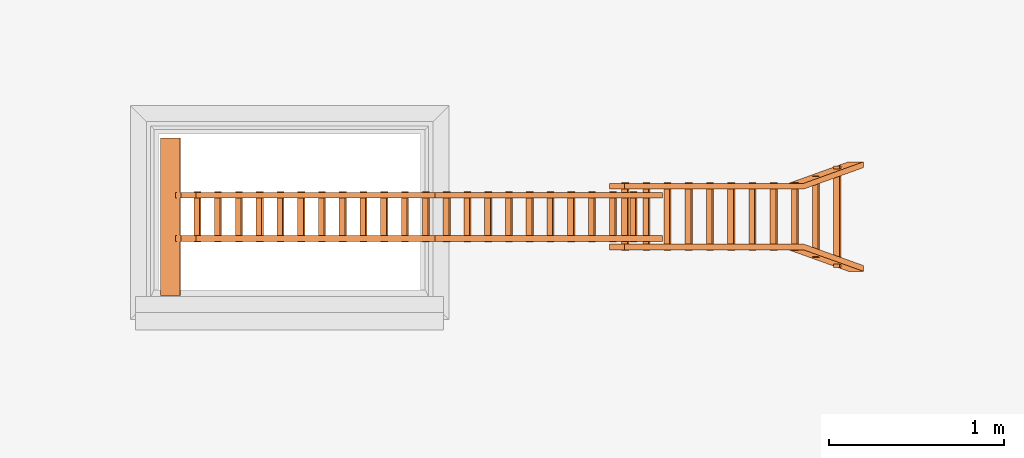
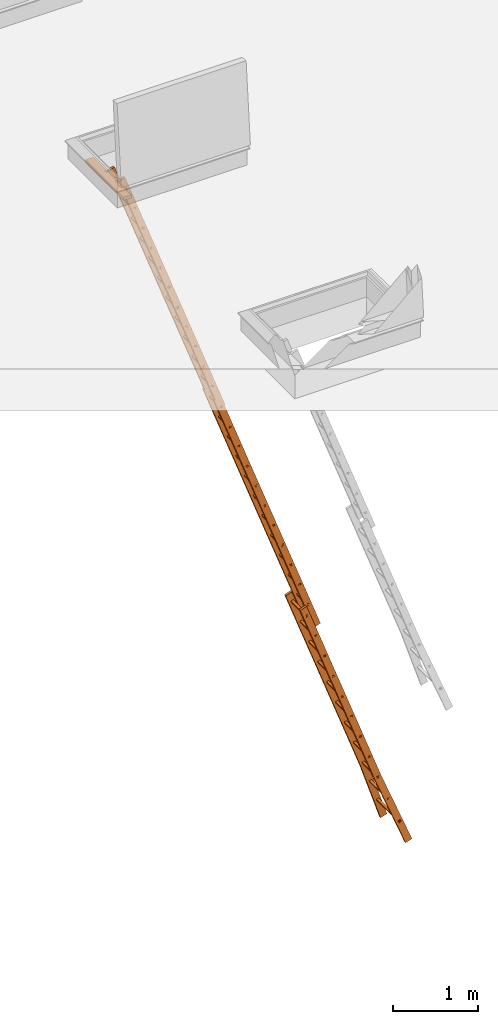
# One storey, part 7 of 28: 1 proxy, 2 openings.
"""IFC2X3 building model written with IfcOpenShell, lengths in millimetres."""

from ifc_helpers import new_model, entity, si_unit, converted_unit, derived_unit, direction, frame, frame_2d, origin, origin_2d_with_axis, place, context, subcontext, project, spatial, polyline, circle_curve, parameter, trimmed, segment, composite_curve, rectangle, outline, extrude, source, transform, mapped, type_object, type_shapes, element, save


model = new_model("IFC2X3")

# Units and contexts
model_context = context("Model", 3, precision=0.01, world=origin(), true_north=direction((6.12303176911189e-17, 1.0)))
body_context = subcontext(model_context, "Body", "Model", "MODEL_VIEW")
ifc_project = project(units=[si_unit("LENGTHUNIT", "METRE", prefix="MILLI"), si_unit("AREAUNIT", "SQUARE_METRE"), si_unit("VOLUMEUNIT", "CUBIC_METRE"), converted_unit("PLANEANGLEUNIT", "DEGREE", entity("IfcRatioMeasure", 0.0174532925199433), si_unit("PLANEANGLEUNIT", "RADIAN"), dimensions=[0, 0, 0, 0, 0, 0, 0]), si_unit("MASSUNIT", "GRAM", prefix="KILO"), derived_unit("MASSDENSITYUNIT", [(si_unit("MASSUNIT", "GRAM", prefix="KILO"), 1), (si_unit("LENGTHUNIT", "METRE"), -3)]), si_unit("TIMEUNIT", "SECOND"), si_unit("FREQUENCYUNIT", "HERTZ"), si_unit("THERMODYNAMICTEMPERATUREUNIT", "DEGREE_CELSIUS"), derived_unit("THERMALTRANSMITTANCEUNIT", [(si_unit("MASSUNIT", "GRAM", prefix="KILO"), 1), (si_unit("THERMODYNAMICTEMPERATUREUNIT", "KELVIN"), -1), (si_unit("TIMEUNIT", "SECOND"), -3)]), derived_unit("VOLUMETRICFLOWRATEUNIT", [(si_unit("LENGTHUNIT", "METRE"), 3), (si_unit("TIMEUNIT", "SECOND"), -1)]), si_unit("ELECTRICCURRENTUNIT", "AMPERE"), si_unit("ELECTRICVOLTAGEUNIT", "VOLT"), si_unit("POWERUNIT", "WATT"), si_unit("FORCEUNIT", "NEWTON", prefix="KILO"), si_unit("ILLUMINANCEUNIT", "LUX"), si_unit("LUMINOUSFLUXUNIT", "LUMEN"), si_unit("LUMINOUSINTENSITYUNIT", "CANDELA"), derived_unit("USERDEFINED", [(si_unit("MASSUNIT", "GRAM", prefix="KILO"), -1), (si_unit("LENGTHUNIT", "METRE"), -2), (si_unit("TIMEUNIT", "SECOND"), 3), (si_unit("LUMINOUSFLUXUNIT", "LUMEN"), 1)]), derived_unit("LINEARVELOCITYUNIT", [(si_unit("LENGTHUNIT", "METRE"), 1), (si_unit("TIMEUNIT", "SECOND"), -1)]), si_unit("PRESSUREUNIT", "PASCAL"), derived_unit("USERDEFINED", [(si_unit("LENGTHUNIT", "METRE"), -2), (si_unit("MASSUNIT", "GRAM", prefix="KILO"), 1), (si_unit("TIMEUNIT", "SECOND"), -2)])], contexts=[model_context])

# Site, building, storey
site_placement = place(None, origin())
site = spatial("IfcSite", under=ifc_project, at=site_placement, Name="Default", CompositionType="ELEMENT")
building_placement = place(site_placement, origin())
building = spatial("IfcBuilding", under=site, at=building_placement, CompositionType="ELEMENT")
storey_placement = place(building_placement, frame((0.0, 0.0, 4000.0)))
storey = spatial("IfcBuildingStorey", under=building, at=storey_placement, Name="Level 2", CompositionType="ELEMENT", Elevation=4000.0)

# Proxy, openings
building_element_proxy_type = type_object("IfcBuildingElementProxyType", Name="9_Topaccess_Trap_3delige1", PredefinedType="NOTDEFINED")
shared_shape = source(origin(), body_context, "Body", "SweptSolid", [
    extrude(outline(composite_curve([segment(polyline([(-20.0, -72.6666666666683), (20.0, -72.6666666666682)]), True, "CONTINUOUS"), segment(polyline([(20.0, -72.6666666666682), (20.0, 31.8333333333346)]), True, "CONTINUOUS"), segment(trimmed(circle_curve(frame_2d((11.0, 31.8333333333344), x_axis=(0.939692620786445, -0.342020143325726)), 8.99999999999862), [parameter(20.0000000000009)], [parameter(109.999999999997)], True, "PARAMETER"), True, "CONTINUOUS"), segment(polyline([(11.0, 40.8333333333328), (-11.0, 40.833333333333)]), True, "CONTINUOUS"), segment(trimmed(circle_curve(frame_2d((-11.0, 31.8333333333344), x_axis=(0.939692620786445, -0.342020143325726)), 8.99999999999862), [parameter(109.999999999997)], [parameter(199.999999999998)], True, "PARAMETER"), True, "CONTINUOUS"), segment(polyline([(-20.0, 31.8333333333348), (-20.0, -72.6666666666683)]), True, "CONTINUOUS")], self_intersect=False)), frame((-484.291584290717, 5437.00468660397, 85.555153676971), z_axis=(1.0, 0.0, 0.0), x_axis=(0.0, 0.939692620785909, 0.342020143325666)), (0.0, 0.0, 1.0), 900.0),
    extrude(outline(composite_curve([segment(polyline([(34.5620685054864, -17.3803405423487), (-85.4379314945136, -17.3803405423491)]), True, "CONTINUOUS"), segment(polyline([(-85.4379314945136, -17.3803405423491), (-85.4379314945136, -20.3803405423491)]), True, "CONTINUOUS"), segment(polyline([(-85.4379314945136, -20.3803405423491), (34.8237042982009, -20.3803405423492)]), True, "CONTINUOUS"), segment(trimmed(circle_curve(frame_2d((31.2529900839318, 0.719659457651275), x_axis=(1.0, 0.0)), 21.4), [parameter(279.605058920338)], [parameter(66.7401617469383)], True, "PARAMETER"), True, "CONTINUOUS"), segment(polyline([(39.7038846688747, 20.3803405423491), (11.3620685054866, 20.380340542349)]), True, "CONTINUOUS"), segment(polyline([(11.3620685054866, 20.380340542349), (11.3620685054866, 17.380340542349)]), True, "CONTINUOUS"), segment(polyline([(11.3620685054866, 17.380340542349), (39.0620685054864, 17.3803405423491)]), True, "CONTINUOUS"), segment(trimmed(circle_curve(frame_2d((31.2529900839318, 0.719659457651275), x_axis=(1.0, 0.0)), 18.4), [parameter(280.36051137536)], [parameter(64.8869014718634)], True, "PARAMETER"), False, "CONTINUOUS")], self_intersect=False)), frame((72.0, 5400.1320556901, 113.619659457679), z_axis=(-1.0, 0.0, 0.0), x_axis=(0.0, 1.0, 0.0)), (0.0, 0.0, -1.0), 33.0),
    extrude(outline(composite_curve([segment(polyline([(-85.4379314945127, -17.3803405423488), (-85.4379314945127, -20.3803405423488)]), True, "CONTINUOUS"), segment(polyline([(-85.4379314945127, -20.3803405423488), (34.8237042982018, -20.3803405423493)]), True, "CONTINUOUS"), segment(trimmed(circle_curve(frame_2d((31.2529900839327, 0.719659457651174), x_axis=(1.0, 0.0)), 21.4), [parameter(279.605058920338)], [parameter(66.7401617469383)], True, "PARAMETER"), True, "CONTINUOUS"), segment(polyline([(39.7038846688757, 20.380340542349), (11.3620685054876, 20.380340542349)]), True, "CONTINUOUS"), segment(polyline([(11.3620685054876, 20.380340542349), (11.3620685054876, 17.380340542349)]), True, "CONTINUOUS"), segment(polyline([(11.3620685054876, 17.380340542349), (39.0620685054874, 17.380340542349)]), True, "CONTINUOUS"), segment(trimmed(circle_curve(frame_2d((31.2529900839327, 0.719659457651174), x_axis=(1.0, 0.0)), 18.4), [parameter(280.36051137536)], [parameter(64.8869014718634)], True, "PARAMETER"), False, "CONTINUOUS"), segment(polyline([(34.5620685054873, -17.3803405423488), (-85.4379314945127, -17.3803405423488)]), True, "CONTINUOUS")], self_intersect=False)), frame((-175.0, 5400.13205569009, 113.619659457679), z_axis=(-1.0, 0.0, 0.0), x_axis=(0.0, 1.0, 0.0)), (0.0, 0.0, -1.0), 33.0000000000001),
    extrude(outline(polyline([(-11.5216143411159, -16.5), (13.8405381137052, -16.5), (13.8405381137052, 16.4999999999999), (-16.1594618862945, 16.5), (-11.5216143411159, -16.5)]), holes=[polyline([(8.84053811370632, -11.5), (-7.1751806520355, -11.5), (-10.4076198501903, 11.5000000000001), (8.84053811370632, 11.5), (8.84053811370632, -11.5)])]), frame((-178.583168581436, 1440.72573419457, 171.084388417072), z_axis=(1.0, 0.0, 0.0), x_axis=(0.0, -1.0, 0.0)), (0.0, 0.0, 1.0), 288.583168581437),
    extrude(outline(polyline([(-11.5216143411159, -16.5), (13.8405381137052, -16.5), (13.8405381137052, 16.4999999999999), (-16.1594618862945, 16.5), (-11.5216143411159, -16.5)]), holes=[polyline([(8.84053811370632, -11.5), (-7.1751806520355, -11.5), (-10.4076198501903, 11.5000000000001), (8.84053811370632, 11.5), (8.84053811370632, -11.5)])]), frame((-178.583168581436, 1093.22573419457, 171.084388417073), z_axis=(1.0, 0.0, 0.0), x_axis=(0.0, -1.0, 0.0)), (0.0, 0.0, 1.0), 288.583168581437),
    extrude(outline(polyline([(-11.5216143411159, -16.5), (13.8405381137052, -16.5), (13.8405381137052, 16.4999999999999), (-16.1594618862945, 16.5), (-11.5216143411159, -16.5)]), holes=[polyline([(8.84053811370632, -11.5), (-7.1751806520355, -11.5), (-10.4076198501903, 11.5000000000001), (8.84053811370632, 11.5), (8.84053811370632, -11.5)])]), frame((-178.583168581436, 745.725734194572, 171.084388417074), z_axis=(1.0, 0.0, 0.0), x_axis=(0.0, -1.0, 0.0)), (0.0, 0.0, 1.0), 288.583168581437),
    extrude(outline(polyline([(-11.5216143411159, -16.5), (13.8405381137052, -16.5), (13.8405381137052, 16.4999999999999), (-16.1594618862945, 16.5), (-11.5216143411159, -16.5)]), holes=[polyline([(8.84053811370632, -11.5), (-7.1751806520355, -11.5), (-10.4076198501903, 11.5000000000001), (8.84053811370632, 11.5), (8.84053811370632, -11.5)])]), frame((-178.583168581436, 398.225734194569, 171.084388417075), z_axis=(1.0, 0.0, 0.0), x_axis=(0.0, -1.0, 0.0)), (0.0, 0.0, 1.0), 288.583168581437),
    extrude(outline(polyline([(-11.5216143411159, -16.5), (13.8405381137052, -16.5), (13.8405381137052, 16.4999999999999), (-16.1594618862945, 16.5), (-11.5216143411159, -16.5)]), holes=[polyline([(8.84053811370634, -11.5), (-7.17518065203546, -11.5), (-10.4076198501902, 11.5000000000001), (8.84053811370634, 11.5), (8.84053811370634, -11.5)])]), frame((-178.583168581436, 50.7257341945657, 171.084388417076), z_axis=(1.0, 0.0, 0.0), x_axis=(0.0, -1.0, 0.0)), (0.0, 0.0, 1.0), 288.583168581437),
    extrude(outline(polyline([(-11.5216143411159, -16.5), (13.8405381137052, -16.5), (13.8405381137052, 16.4999999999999), (-16.1594618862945, 16.5), (-11.5216143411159, -16.5)]), holes=[polyline([(8.84053811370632, -11.5), (-7.17518065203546, -11.5), (-10.4076198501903, 11.5000000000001), (8.84053811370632, 11.5), (8.84053811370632, -11.5)])]), frame((-178.583168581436, -296.774265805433, 171.084388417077), z_axis=(1.0, 0.0, 0.0), x_axis=(0.0, -1.0, 0.0)), (0.0, 0.0, 1.0), 288.583168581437),
    extrude(outline(polyline([(-11.5216143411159, -16.5), (13.8405381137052, -16.5), (13.8405381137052, 16.4999999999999), (-16.1594618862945, 16.5), (-11.5216143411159, -16.5)]), holes=[polyline([(8.84053811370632, -11.5), (-7.1751806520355, -11.5), (-10.4076198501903, 11.5000000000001), (8.84053811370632, 11.5), (8.84053811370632, -11.5)])]), frame((-178.583168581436, -644.274265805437, 171.084388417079), z_axis=(1.0, 0.0, 0.0), x_axis=(0.0, -1.0, 0.0)), (0.0, 0.0, 1.0), 288.583168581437),
    extrude(outline(polyline([(-11.5216143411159, -16.5), (13.8405381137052, -16.5), (13.8405381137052, 16.4999999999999), (-16.1594618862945, 16.5), (-11.5216143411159, -16.5)]), holes=[polyline([(8.84053811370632, -11.5), (-7.1751806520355, -11.5), (-10.4076198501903, 11.5000000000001), (8.84053811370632, 11.5), (8.84053811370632, -11.5)])]), frame((-178.583168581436, -991.774265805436, 171.08438841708), z_axis=(1.0, 0.0, 0.0), x_axis=(0.0, -1.0, 0.0)), (0.0, 0.0, 1.0), 288.583168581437),
    extrude(outline(polyline([(-11.5216143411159, -16.5), (13.8405381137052, -16.5), (13.8405381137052, 16.4999999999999), (-16.1594618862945, 16.5), (-11.5216143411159, -16.5)]), holes=[polyline([(8.84053811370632, -11.5), (-7.1751806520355, -11.5), (-10.4076198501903, 11.5000000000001), (8.84053811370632, 11.5), (8.84053811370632, -11.5)])]), frame((-178.583168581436, -1339.27426580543, 171.084388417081), z_axis=(1.0, 0.0, 0.0), x_axis=(0.0, -1.0, 0.0)), (0.0, 0.0, 1.0), 288.583168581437),
    extrude(outline(polyline([(-11.5216143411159, -16.4999999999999), (13.8405381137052, -16.4999999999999), (13.8405381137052, 16.4999999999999), (-16.1594618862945, 16.5), (-11.5216143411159, -16.4999999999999)]), holes=[polyline([(8.84053811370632, -11.5), (-7.1751806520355, -11.5), (-10.4076198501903, 11.5000000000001), (8.84053811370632, 11.5), (8.84053811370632, -11.5)])]), frame((-178.583168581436, -1686.77426580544, 171.084388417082), z_axis=(1.0, 0.0, 0.0), x_axis=(0.0, -1.0, 0.0)), (0.0, 0.0, 1.0), 288.583168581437),
    extrude(rectangle(XDim=33.0, YDim=4000.0, at=origin_2d_with_axis()), frame((88.5000000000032, -399.911054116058, 120.0), z_axis=(0.0, 0.0, 1.0), x_axis=(-1.0, 0.0, 0.0)), (0.0, 0.0, 1.0), 92.0),
    extrude(rectangle(XDim=33.0, YDim=4000.0, at=frame_2d((8.88178419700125e-15, 0.0), x_axis=(1.0, 0.0))), frame((-158.499999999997, -399.911054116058, 120.0), z_axis=(0.0, 0.0, 1.0), x_axis=(-1.0, 0.0, 0.0)), (0.0, 0.0, 1.0), 92.0),
    extrude(rectangle(XDim=33.0, YDim=4000.0, at=origin_2d_with_axis()), frame((88.5000000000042, 3440.6557599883, 134.0), z_axis=(0.0, 0.0, 1.0), x_axis=(-1.0, 0.0, 0.0)), (0.0, 0.0, 1.0), 90.0),
    extrude(rectangle(XDim=33.0, YDim=4000.0, at=frame_2d((8.88178419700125e-15, -5.6843418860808e-13), x_axis=(1.0, 0.0))), frame((-158.499999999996, 3440.6557599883, 134.0), z_axis=(0.0, 0.0, 1.0), x_axis=(-1.0, 0.0, 0.0)), (0.0, 0.0, 1.0), 90.0),
    extrude(outline(polyline([(-11.5216143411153, -16.5), (13.8405381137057, -16.5), (13.8405381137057, 16.5), (-16.159461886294, 16.5000000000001), (-11.5216143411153, -16.5)]), holes=[polyline([(8.84053811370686, -11.5), (-7.17518065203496, -11.5), (-10.4076198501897, 11.5), (8.84053811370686, 11.5), (8.84053811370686, -11.5)])]), frame((-178.583168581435, 5281.29254829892, 176.084388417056), z_axis=(1.0, 0.0, 0.0), x_axis=(0.0, -1.0, 0.0)), (0.0, 0.0, 1.0), 288.583168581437),
    extrude(outline(polyline([(-11.5216143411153, -16.5), (13.8405381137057, -16.5), (13.8405381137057, 16.5), (-16.159461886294, 16.5000000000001), (-11.5216143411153, -16.5)]), holes=[polyline([(8.84053811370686, -11.5), (-7.17518065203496, -11.5), (-10.4076198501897, 11.5), (8.84053811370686, 11.5), (8.84053811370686, -11.5)])]), frame((-178.583168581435, 4933.79254829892, 176.084388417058), z_axis=(1.0, 0.0, 0.0), x_axis=(0.0, -1.0, 0.0)), (0.0, 0.0, 1.0), 288.583168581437),
    extrude(outline(polyline([(-11.5216143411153, -16.5), (13.8405381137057, -16.5), (13.8405381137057, 16.5), (-16.159461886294, 16.5000000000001), (-11.5216143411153, -16.5)]), holes=[polyline([(8.84053811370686, -11.5), (-7.17518065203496, -11.5), (-10.4076198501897, 11.5), (8.84053811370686, 11.5), (8.84053811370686, -11.5)])]), frame((-178.583168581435, 4586.29254829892, 176.084388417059), z_axis=(1.0, 0.0, 0.0), x_axis=(0.0, -1.0, 0.0)), (0.0, 0.0, 1.0), 288.583168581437),
    extrude(outline(polyline([(-11.5216143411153, -16.5), (13.8405381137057, -16.5), (13.8405381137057, 16.4999999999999), (-16.159461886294, 16.5), (-11.5216143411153, -16.5)]), holes=[polyline([(8.84053811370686, -11.5), (-7.17518065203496, -11.5), (-10.4076198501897, 11.5), (8.84053811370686, 11.4999999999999), (8.84053811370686, -11.5)])]), frame((-178.583168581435, 4238.79254829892, 176.08438841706), z_axis=(1.0, 0.0, 0.0), x_axis=(0.0, -1.0, 0.0)), (0.0, 0.0, 1.0), 288.583168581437),
    extrude(outline(polyline([(-11.5216143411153, -16.5), (13.8405381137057, -16.5), (13.8405381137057, 16.5), (-16.159461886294, 16.5000000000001), (-11.5216143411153, -16.5)]), holes=[polyline([(8.84053811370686, -11.5), (-7.17518065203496, -11.5), (-10.4076198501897, 11.5), (8.84053811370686, 11.5), (8.84053811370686, -11.5)])]), frame((-178.583168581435, 3891.29254829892, 176.084388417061), z_axis=(1.0, 0.0, 0.0), x_axis=(0.0, -1.0, 0.0)), (0.0, 0.0, 1.0), 288.583168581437),
    extrude(outline(polyline([(-11.5216143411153, -16.5), (13.8405381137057, -16.5), (13.8405381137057, 16.5), (-16.159461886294, 16.5000000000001), (-11.5216143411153, -16.5)]), holes=[polyline([(8.84053811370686, -11.5), (-7.17518065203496, -11.5), (-10.4076198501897, 11.5), (8.84053811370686, 11.5), (8.84053811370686, -11.5)])]), frame((-178.583168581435, 3543.79254829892, 176.084388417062), z_axis=(1.0, 0.0, 0.0), x_axis=(0.0, -1.0, 0.0)), (0.0, 0.0, 1.0), 288.583168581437),
    extrude(outline(polyline([(-11.5216143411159, -16.5), (13.8405381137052, -16.5), (13.8405381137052, 16.4999999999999), (-16.1594618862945, 16.5), (-11.5216143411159, -16.5)]), holes=[polyline([(8.84053811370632, -11.5), (-7.1751806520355, -11.5), (-10.4076198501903, 11.5), (8.84053811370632, 11.5), (8.84053811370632, -11.5)])]), frame((-178.583168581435, 3196.29254829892, 176.084388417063), z_axis=(1.0, 0.0, 0.0), x_axis=(0.0, -1.0, 0.0)), (0.0, 0.0, 1.0), 288.583168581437),
    extrude(outline(polyline([(-11.5216143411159, -16.5), (13.8405381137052, -16.5), (13.8405381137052, 16.4999999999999), (-16.1594618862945, 16.5), (-11.5216143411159, -16.5)]), holes=[polyline([(8.84053811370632, -11.5), (-7.1751806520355, -11.5), (-10.4076198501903, 11.5), (8.84053811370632, 11.5), (8.84053811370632, -11.5)])]), frame((-178.583168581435, 2848.79254829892, 176.084388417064), z_axis=(1.0, 0.0, 0.0), x_axis=(0.0, -1.0, 0.0)), (0.0, 0.0, 1.0), 288.583168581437),
    extrude(outline(polyline([(-11.5216143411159, -16.5), (13.8405381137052, -16.5), (13.8405381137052, 16.5), (-16.1594618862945, 16.5000000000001), (-11.5216143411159, -16.5)]), holes=[polyline([(8.84053811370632, -11.5), (-7.1751806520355, -11.5), (-10.4076198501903, 11.5000000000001), (8.84053811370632, 11.5), (8.84053811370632, -11.5)])]), frame((-178.583168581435, 2501.29254829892, 176.084388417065), z_axis=(1.0, 0.0, 0.0), x_axis=(0.0, -1.0, 0.0)), (0.0, 0.0, 1.0), 288.583168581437),
    extrude(outline(polyline([(-11.5216143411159, -16.5), (13.8405381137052, -16.5), (13.8405381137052, 16.5), (-16.1594618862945, 16.5000000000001), (-11.5216143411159, -16.5)]), holes=[polyline([(8.84053811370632, -11.5), (-7.1751806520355, -11.5), (-10.4076198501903, 11.5), (8.84053811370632, 11.5), (8.84053811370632, -11.5)])]), frame((-178.583168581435, 2153.79254829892, 176.084388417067), z_axis=(1.0, 0.0, 0.0), x_axis=(0.0, -1.0, 0.0)), (0.0, 0.0, 1.0), 288.583168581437),
    extrude(outline(polyline([(-11.5216143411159, -16.5), (13.8405381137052, -16.5), (13.8405381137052, 16.4999999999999), (-16.1594618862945, 16.5), (-11.5216143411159, -16.5)]), holes=[polyline([(8.84053811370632, -11.5), (-7.1751806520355, -11.5), (-10.4076198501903, 11.5), (8.84053811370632, 11.5), (8.84053811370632, -11.5)])]), frame((-178.583168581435, 1806.29254829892, 176.084388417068), z_axis=(1.0, 0.0, 0.0), x_axis=(0.0, -1.0, 0.0)), (0.0, 0.0, 1.0), 288.583168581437),
    extrude(outline(polyline([(-11.5216143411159, -16.5), (13.8405381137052, -16.5), (13.8405381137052, 16.4999999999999), (-16.1594618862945, 16.5), (-11.5216143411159, -16.5)]), holes=[polyline([(8.84053811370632, -11.5), (-7.1751806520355, -11.5), (-10.4076198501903, 11.5), (8.84053811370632, 11.5), (8.84053811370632, -11.5)])]), frame((-227.077291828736, -2129.53575748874, 85.0843884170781), z_axis=(1.0, 0.0, 0.0), x_axis=(0.0, -1.0, 0.0)), (0.0, 0.0, 1.0), 389.077291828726),
    extrude(outline(polyline([(-11.5216143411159, -16.5), (13.8405381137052, -16.5), (13.8405381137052, 16.5), (-16.1594618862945, 16.5), (-11.5216143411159, -16.5)]), holes=[polyline([(8.84053811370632, -11.5), (-7.1751806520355, -11.5), (-10.4076198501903, 11.5), (8.84053811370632, 11.5), (8.84053811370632, -11.5)])]), frame((-227.077291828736, -2484.53575748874, 85.0843884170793), z_axis=(1.0, 0.0, 0.0), x_axis=(0.0, -1.0, 0.0)), (0.0, 0.0, 1.0), 389.077291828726),
    extrude(outline(polyline([(-11.5216143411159, -16.5), (13.8405381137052, -16.5), (13.8405381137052, 16.4999999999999), (-16.1594618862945, 16.5), (-11.5216143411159, -16.5)]), holes=[polyline([(8.84053811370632, -11.5), (-7.1751806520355, -11.5), (-10.4076198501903, 11.5), (8.84053811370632, 11.5), (8.84053811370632, -11.5)])]), frame((-227.077291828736, -2839.53575748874, 85.0843884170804), z_axis=(1.0, 0.0, 0.0), x_axis=(0.0, -1.0, 0.0)), (0.0, 0.0, 1.0), 389.077291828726),
    extrude(outline(polyline([(-11.5216143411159, -16.5), (13.8405381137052, -16.5), (13.8405381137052, 16.4999999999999), (-16.1594618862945, 16.5), (-11.5216143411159, -16.5)]), holes=[polyline([(8.84053811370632, -11.5), (-7.1751806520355, -11.5), (-10.4076198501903, 11.5000000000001), (8.84053811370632, 11.5), (8.84053811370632, -11.5)])]), frame((-178.583168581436, -2034.27426580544, 171.084388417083), z_axis=(1.0, 0.0, 0.0), x_axis=(0.0, -1.0, 0.0)), (0.0, 0.0, 1.0), 288.583168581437),
    extrude(outline(polyline([(-11.5216143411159, -16.5), (13.8405381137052, -16.5), (13.8405381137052, 16.4999999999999), (-16.1594618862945, 16.5), (-11.5216143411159, -16.5)]), holes=[polyline([(8.84053811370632, -11.5), (-7.1751806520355, -11.5), (-10.4076198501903, 11.5), (8.84053811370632, 11.5), (8.84053811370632, -11.5)])]), frame((-227.077291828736, -3194.53575748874, 85.0843884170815), z_axis=(1.0, 0.0, 0.0), x_axis=(0.0, -1.0, 0.0)), (0.0, 0.0, 1.0), 389.077291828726),
    extrude(outline(polyline([(-11.5216143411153, -16.5), (13.8405381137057, -16.5), (13.8405381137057, 16.4999999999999), (-16.159461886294, 16.5), (-11.5216143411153, -16.5)]), holes=[polyline([(8.84053811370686, -11.5), (-7.17518065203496, -11.5), (-10.4076198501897, 11.5), (8.84053811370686, 11.5), (8.84053811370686, -11.5)])]), frame((-227.077291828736, -3549.53575748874, 85.0843884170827), z_axis=(1.0, 0.0, 0.0), x_axis=(0.0, -1.0, 0.0)), (0.0, 0.0, 1.0), 389.077291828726),
    extrude(outline(polyline([(-11.5216143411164, -16.5), (13.8405381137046, -16.5), (13.8405381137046, 16.5), (-16.159461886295, 16.5), (-11.5216143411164, -16.5)]), holes=[polyline([(8.84053811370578, -11.5), (-7.17518065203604, -11.5), (-10.4076198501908, 11.5), (8.84053811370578, 11.5), (8.84053811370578, -11.5)])]), frame((-227.077291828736, -3904.53575748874, 85.0843884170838), z_axis=(1.0, 0.0, 0.0), x_axis=(0.0, -1.0, 0.0)), (0.0, 0.0, 1.0), 389.077291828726),
    extrude(outline(polyline([(-11.5216143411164, -16.5), (13.8405381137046, -16.5), (13.8405381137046, 16.5), (-16.159461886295, 16.5000000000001), (-11.5216143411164, -16.5)]), holes=[polyline([(8.84053811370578, -11.5), (-7.17518065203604, -11.5), (-10.4076198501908, 11.5000000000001), (8.84053811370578, 11.5), (8.84053811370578, -11.5)])]), frame((-227.077291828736, -4259.53575748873, 85.084388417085), z_axis=(1.0, 0.0, 0.0), x_axis=(0.0, -1.0, 0.0)), (0.0, 0.0, 1.0), 389.077291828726),
    extrude(outline(polyline([(-11.5216143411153, -16.5), (13.8405381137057, -16.5), (13.8405381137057, 16.5), (-16.159461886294, 16.5000000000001), (-11.5216143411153, -16.5)]), holes=[polyline([(8.84053811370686, -11.5), (-7.17518065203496, -11.5), (-10.4076198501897, 11.5000000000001), (8.84053811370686, 11.5), (8.84053811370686, -11.5)])]), frame((-227.077291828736, -4614.53575748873, 85.0843884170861), z_axis=(1.0, 0.0, 0.0), x_axis=(0.0, -1.0, 0.0)), (0.0, 0.0, 1.0), 389.077291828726),
    extrude(outline(polyline([(-11.5216143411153, -16.5), (13.8405381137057, -16.5), (13.8405381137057, 16.5), (-16.159461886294, 16.5000000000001), (-11.5216143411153, -16.5)]), holes=[polyline([(8.84053811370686, -11.5), (-7.17518065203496, -11.5), (-10.4076198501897, 11.5000000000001), (8.84053811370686, 11.5), (8.84053811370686, -11.5)])]), frame((-227.077291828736, -4969.53575748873, 85.0843884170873), z_axis=(1.0, 0.0, 0.0), x_axis=(0.0, -1.0, 0.0)), (0.0, 0.0, 1.0), 389.077291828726),
    extrude(outline(polyline([(-11.5216143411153, -16.5), (13.8405381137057, -16.5), (13.8405381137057, 16.5), (-16.159461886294, 16.5000000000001), (-11.5216143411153, -16.5)]), holes=[polyline([(8.84053811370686, -11.5), (-7.17518065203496, -11.5), (-10.4076198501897, 11.5), (8.84053811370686, 11.5), (8.84053811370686, -11.5)])]), frame((-266.000121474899, -5324.53575748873, 85.0843884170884), z_axis=(1.0, 0.0, 0.0), x_axis=(0.0, -1.0, 0.0)), (0.0, 0.0, 1.0), 465.000121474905),
    extrude(outline(polyline([(-11.5216143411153, -16.5), (13.8405381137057, -16.5), (13.8405381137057, 16.5), (-16.159461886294, 16.5000000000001), (-11.5216143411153, -16.5)]), holes=[polyline([(8.84053811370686, -11.5), (-7.17518065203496, -11.5), (-10.4076198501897, 11.5000000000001), (8.84053811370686, 11.5), (8.84053811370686, -11.5)])]), frame((-323.951711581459, -5679.53575748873, 85.0843884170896), z_axis=(1.0, 0.0, 0.0), x_axis=(0.0, -1.0, 0.0)), (0.0, 0.0, 1.0), 580.345535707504),
    extrude(outline(polyline([(652.705853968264, -138.16622783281), (1663.21970450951, -138.16622783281), (1667.27159501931, -105.166227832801), (656.727542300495, -105.412204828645), (-2317.9515037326, 259.832455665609), (-2321.97319206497, 227.078432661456), (652.705853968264, -138.16622783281)])), frame((181.59152386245, -4331.59474961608, 35.4999999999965), z_axis=(0.0, 0.0, 1.0), x_axis=(0.121869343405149, -0.992546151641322, 0.0)), (0.0, 0.0, 1.0), 92.0),
    extrude(outline(polyline([(655.058107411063, 105.207223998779), (1667.6054819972, 105.207223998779), (1663.55359148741, 138.207223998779), (653.039740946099, 138.207223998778), (-2321.63930508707, -227.037436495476), (-2317.6176167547, -259.791459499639), (655.058107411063, 105.207223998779)])), frame((-247.591523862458, -4331.25835520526, 35.4999999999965), z_axis=(0.0, 0.0, 1.0), x_axis=(-0.121869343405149, -0.992546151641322, 0.0)), (0.0, 0.0, 1.0), 92.0),
])
type_shapes(building_element_proxy_type, [shared_shape])
proxy_placement = place(storey_placement, frame((-4546.37891777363, 9765.63743673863, -4726.49653876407), z_axis=(0.939692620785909, 0.0, 0.342020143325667), x_axis=(0.0, 1.0, 0.0)))
proxy = element("IfcBuildingElementProxy", 1, at=proxy_placement, inside=storey, type_object=building_element_proxy_type, Name="9_Topaccess_Trap_3delige1:9_Topaccess_Trap_3delige1", ObjectType="9_Topaccess_Trap_3delige1", context=body_context, shape_type="MappedRepresentation", body=[
    mapped(shared_shape, transform((0.0, 0.0, 0.0), scale=1.0)),
])
opening_1_placement = place(storey_placement, frame((-4546.37891777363, 9765.63743673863, -726.496538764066), z_axis=(0.321393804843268, 0.939692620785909, 0.11697777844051), x_axis=(-0.342020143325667, 0.0, 0.939692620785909)))
element("IfcOpeningElement", 2, at=opening_1_placement, cuts=proxy, Name="9_Topaccess_Trap_3delige1:9_Topaccess_Trap_3delige1:1", ObjectType="Opening", context=body_context, shape_type="SweptSolid", body=[
    extrude(rectangle(XDim=42.5298592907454, YDim=59.0000000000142, at=frame_2d((1.4210854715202e-14, 0.0), x_axis=(1.0, 0.0))), frame((5417.83179579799, -3629.61402459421, -1489.74364376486), z_axis=(0.939692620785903, 0.321393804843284, 0.116977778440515), x_axis=(0.342020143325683, -0.883022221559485, -0.321393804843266)), (0.0, 0.0, 1.0), 40.0),
])
opening_2_placement = place(storey_placement, frame((-4546.37891777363, 9765.63743673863, -726.496538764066), z_axis=(0.321393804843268, 0.939692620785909, 0.11697777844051), x_axis=(-0.342020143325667, 0.0, 0.939692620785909)))
element("IfcOpeningElement", 3, at=opening_2_placement, cuts=proxy, Name="9_Topaccess_Trap_3delige1:9_Topaccess_Trap_3delige1:2", ObjectType="Opening", context=body_context, shape_type="SweptSolid", body=[
    extrude(rectangle(XDim=42.5298592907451, YDim=59.0000000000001, at=frame_2d((1.4210854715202e-13, 0.0), x_axis=(1.0, 0.0))), frame((5417.83179579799, -3714.09299999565, -1257.63956643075), z_axis=(0.939692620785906, 0.321393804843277, 0.116977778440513), x_axis=(0.342020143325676, -0.883022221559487, -0.321393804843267)), (0.0, 0.0, 1.0), 40.0000000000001),
])

save(model, "model.ifc")
